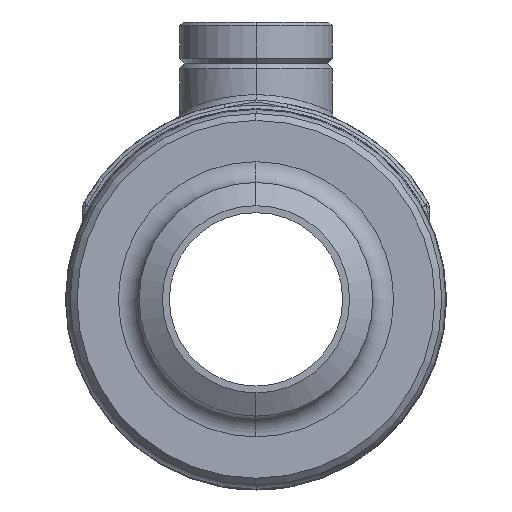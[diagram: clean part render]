
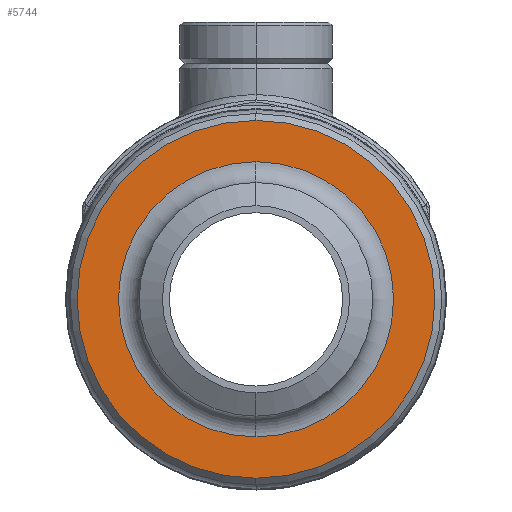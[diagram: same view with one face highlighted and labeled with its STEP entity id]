
A CAD part, left-side view. The second image highlights one B-rep face of the part: STEP entity #5744.
In plain terms, the highlighted planar face has unit normal (-1, 0, 0).
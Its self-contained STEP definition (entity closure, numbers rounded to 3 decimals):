
#1151=CARTESIAN_POINT('',(-62.,0.,0.));
#1152=DIRECTION('',(1.,0.,0.));
#1153=DIRECTION('',(0.,0.,1.));
#1154=AXIS2_PLACEMENT_3D('',#1151,#1152,#1153);
#1156=CARTESIAN_POINT('',(-62.,0.,0.));
#1157=DIRECTION('',(-1.,0.,0.));
#1158=DIRECTION('',(0.,0.,1.));
#1159=AXIS2_PLACEMENT_3D('',#1156,#1157,#1158);
#1171=CARTESIAN_POINT('',(-62.,0.,0.));
#1172=DIRECTION('',(-1.,0.,0.));
#1173=DIRECTION('',(0.,0.,1.));
#1174=AXIS2_PLACEMENT_3D('',#1171,#1172,#1173);
#1176=CARTESIAN_POINT('',(-62.,0.,0.));
#1177=DIRECTION('',(1.,0.,0.));
#1178=DIRECTION('',(0.,0.,1.));
#1179=AXIS2_PLACEMENT_3D('',#1176,#1177,#1178);
#4719=CARTESIAN_POINT('',(-62.,0.,19.85));
#4720=VERTEX_POINT('',#4719);
#4721=CARTESIAN_POINT('',(-62.,0.,-19.85));
#4722=VERTEX_POINT('',#4721);
#4751=CARTESIAN_POINT('',(-62.,0.,25.8));
#4752=CARTESIAN_POINT('',(-62.,0.,-25.8));
#4753=VERTEX_POINT('',#4751);
#4754=VERTEX_POINT('',#4752);
#5729=CARTESIAN_POINT('',(-62.,0.,0.));
#5730=DIRECTION('',(1.,0.,0.));
#5731=DIRECTION('',(0.,0.,1.));
#5732=AXIS2_PLACEMENT_3D('',#5729,#5730,#5731);
#5733=PLANE('',#5732);
#5734=ORIENTED_EDGE('',*,*,#5723,.T.);
#5735=ORIENTED_EDGE('',*,*,#5709,.F.);
#5736=EDGE_LOOP('',(#5734,#5735));
#5737=FACE_OUTER_BOUND('',#5736,.F.);
#5739=ORIENTED_EDGE('',*,*,#5738,.T.);
#5741=ORIENTED_EDGE('',*,*,#5740,.F.);
#5742=EDGE_LOOP('',(#5739,#5741));
#5743=FACE_BOUND('',#5742,.F.);
#5744=ADVANCED_FACE('',(#5737,#5743),#5733,.F.);
#1155=CIRCLE('',#1154,25.8);
#1160=CIRCLE('',#1159,25.8);
#1175=CIRCLE('',#1174,19.85);
#1180=CIRCLE('',#1179,19.85);
#5709=EDGE_CURVE('',#4753,#4754,#1160,.T.);
#5723=EDGE_CURVE('',#4753,#4754,#1155,.T.);
#5738=EDGE_CURVE('',#4720,#4722,#1175,.T.);
#5740=EDGE_CURVE('',#4720,#4722,#1180,.T.);
